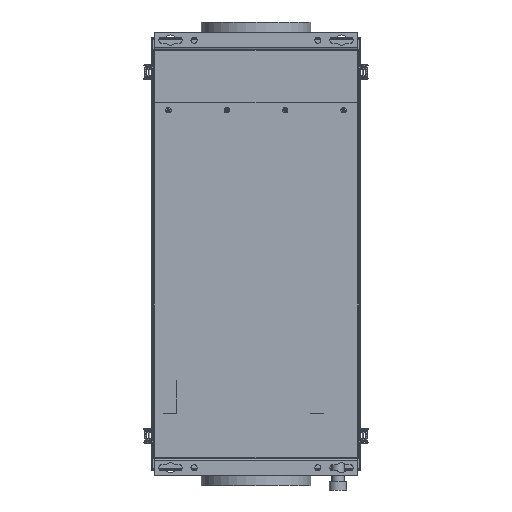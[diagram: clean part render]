
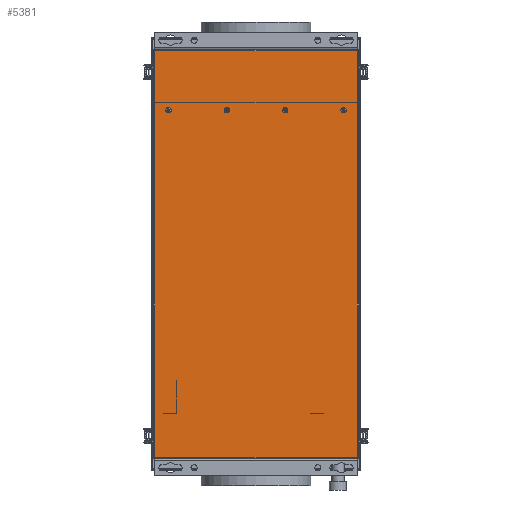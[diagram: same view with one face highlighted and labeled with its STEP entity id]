
A CAD part, front view. The second image highlights one B-rep face of the part: STEP entity #5381.
In plain terms, the highlighted planar face has unit normal (0, -1, 0).
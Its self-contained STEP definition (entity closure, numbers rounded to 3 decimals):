
#17 = ORIENTED_EDGE ( 'NONE', *, *, #4715, .T. ) ;
#732 = CIRCLE ( 'NONE', #29848, 2.1 ) ;
#756 = VERTEX_POINT ( 'NONE', #5319 ) ;
#863 = DIRECTION ( 'NONE',  ( 0., -1., 0. ) ) ;
#913 = CARTESIAN_POINT ( 'NONE',  ( 42.667, 0., 210. ) ) ;
#1188 = CARTESIAN_POINT ( 'NONE',  ( 128., 0., 210. ) ) ;
#1621 = VECTOR ( 'NONE', #2387, 1000. ) ;
#2139 = EDGE_CURVE ( 'NONE', #14454, #5399, #732, .T. ) ;
#2387 = DIRECTION ( 'NONE',  ( -1., 0., 0. ) ) ;
#2449 = FACE_BOUND ( 'NONE', #15016, .T. ) ;
#3085 = CARTESIAN_POINT ( 'NONE',  ( 128., 0., 210. ) ) ;
#3416 = DIRECTION ( 'NONE',  ( 0., 0., -1. ) ) ;
#3618 = CARTESIAN_POINT ( 'NONE',  ( 42.667, 0., 212.1 ) ) ;
#3654 = VERTEX_POINT ( 'NONE', #29640 ) ;
#3656 = AXIS2_PLACEMENT_3D ( 'NONE', #913, #18228, #3416 ) ;
#3668 = CIRCLE ( 'NONE', #10980, 2.1 ) ;
#3694 = DIRECTION ( 'NONE',  ( 0., 0., -1. ) ) ;
#4715 = EDGE_CURVE ( 'NONE', #5045, #15996, #14491, .T. ) ;
#5045 = VERTEX_POINT ( 'NONE', #11815 ) ;
#5319 = CARTESIAN_POINT ( 'NONE',  ( -128., 0., 207.9 ) ) ;
#5339 = VECTOR ( 'NONE', #32213, 1000. ) ;
#5381 = ADVANCED_FACE ( 'NONE', ( #10540, #28895, #15596, #9007, #2449 ), #20818, .T. ) ;
#5399 = VERTEX_POINT ( 'NONE', #3618 ) ;
#5536 = EDGE_CURVE ( 'NONE', #5399, #14454, #5942, .T. ) ;
#5566 = DIRECTION ( 'NONE',  ( 0., -1., 0. ) ) ;
#5580 = DIRECTION ( 'NONE',  ( 0., 0., -1. ) ) ;
#5724 = ORIENTED_EDGE ( 'NONE', *, *, #16790, .T. ) ;
#5942 = CIRCLE ( 'NONE', #3656, 2.1 ) ;
#7339 = VERTEX_POINT ( 'NONE', #25856 ) ;
#7412 = LINE ( 'NONE', #17213, #1621 ) ;
#7863 = AXIS2_PLACEMENT_3D ( 'NONE', #1188, #18483, #3694 ) ;
#8925 = CARTESIAN_POINT ( 'NONE',  ( 148., 0., -299. ) ) ;
#8940 = VECTOR ( 'NONE', #27096, 1000. ) ;
#9007 = FACE_BOUND ( 'NONE', #20584, .T. ) ;
#9048 = DIRECTION ( 'NONE',  ( 0., -1., 0. ) ) ;
#9109 = ORIENTED_EDGE ( 'NONE', *, *, #13876, .F. ) ;
#9120 = CIRCLE ( 'NONE', #16298, 2.1 ) ;
#9263 = ORIENTED_EDGE ( 'NONE', *, *, #5536, .F. ) ;
#9329 = ORIENTED_EDGE ( 'NONE', *, *, #2139, .F. ) ;
#9710 = AXIS2_PLACEMENT_3D ( 'NONE', #23926, #9048, #26473 ) ;
#9712 = LINE ( 'NONE', #32127, #8940 ) ;
#10540 = FACE_BOUND ( 'NONE', #31930, .T. ) ;
#10610 = CARTESIAN_POINT ( 'NONE',  ( -128., 0., 210. ) ) ;
#10924 = CARTESIAN_POINT ( 'NONE',  ( 150., 0., 299. ) ) ;
#10980 = AXIS2_PLACEMENT_3D ( 'NONE', #3085, #20385, #5580 ) ;
#11043 = CIRCLE ( 'NONE', #27386, 2.1 ) ;
#11104 = ORIENTED_EDGE ( 'NONE', *, *, #20981, .F. ) ;
#11379 = CARTESIAN_POINT ( 'NONE',  ( -128., 0., 212.1 ) ) ;
#11433 = CARTESIAN_POINT ( 'NONE',  ( 42.667, 0., 207.9 ) ) ;
#11524 = VERTEX_POINT ( 'NONE', #26971 ) ;
#11815 = CARTESIAN_POINT ( 'NONE',  ( 148., 0., -297. ) ) ;
#12076 = CARTESIAN_POINT ( 'NONE',  ( 42.667, 0., 210. ) ) ;
#12170 = EDGE_CURVE ( 'NONE', #12616, #11524, #31044, .T. ) ;
#12616 = VERTEX_POINT ( 'NONE', #22086 ) ;
#13127 = DIRECTION ( 'NONE',  ( 0., 0., -1. ) ) ;
#13432 = DIRECTION ( 'NONE',  ( 0., 0., -1. ) ) ;
#13876 = EDGE_CURVE ( 'NONE', #21289, #7339, #11043, .T. ) ;
#13889 = ORIENTED_EDGE ( 'NONE', *, *, #12170, .T. ) ;
#14351 = CIRCLE ( 'NONE', #23154, 2.1 ) ;
#14454 = VERTEX_POINT ( 'NONE', #11433 ) ;
#14491 = LINE ( 'NONE', #8925, #20302 ) ;
#14569 = EDGE_LOOP ( 'NONE', ( #11104, #30647 ) ) ;
#14577 = EDGE_LOOP ( 'NONE', ( #13889, #27055, #17, #5724 ) ) ;
#14583 = DIRECTION ( 'NONE',  ( 0., 0., -1. ) ) ;
#14738 = CARTESIAN_POINT ( 'NONE',  ( -148., 0., 299. ) ) ;
#15016 = EDGE_LOOP ( 'NONE', ( #26380, #25906 ) ) ;
#15596 = FACE_OUTER_BOUND ( 'NONE', #14577, .T. ) ;
#15685 = CARTESIAN_POINT ( 'NONE',  ( -42.667, 0., 210. ) ) ;
#15996 = VERTEX_POINT ( 'NONE', #29350 ) ;
#16019 = VERTEX_POINT ( 'NONE', #31878 ) ;
#16298 = AXIS2_PLACEMENT_3D ( 'NONE', #20373, #5566, #22870 ) ;
#16790 = EDGE_CURVE ( 'NONE', #15996, #12616, #7412, .T. ) ;
#17213 = CARTESIAN_POINT ( 'NONE',  ( 148., 0., 297. ) ) ;
#17516 = EDGE_CURVE ( 'NONE', #27692, #756, #14351, .T. ) ;
#18168 = DIRECTION ( 'NONE',  ( 0., 0., -1. ) ) ;
#18228 = DIRECTION ( 'NONE',  ( 0., -1., 0. ) ) ;
#18483 = DIRECTION ( 'NONE',  ( 0., -1., 0. ) ) ;
#19011 = DIRECTION ( 'NONE',  ( 0., 0., 1. ) ) ;
#19181 = AXIS2_PLACEMENT_3D ( 'NONE', #10924, #28387, #13432 ) ;
#20254 = EDGE_CURVE ( 'NONE', #16019, #3654, #23055, .T. ) ;
#20302 = VECTOR ( 'NONE', #19011, 1000. ) ;
#20373 = CARTESIAN_POINT ( 'NONE',  ( -42.667, 0., 210. ) ) ;
#20385 = DIRECTION ( 'NONE',  ( 0., -1., 0. ) ) ;
#20584 = EDGE_LOOP ( 'NONE', ( #9109, #23143 ) ) ;
#20818 = PLANE ( 'NONE',  #19181 ) ;
#20981 = EDGE_CURVE ( 'NONE', #3654, #16019, #3668, .T. ) ;
#21289 = VERTEX_POINT ( 'NONE', #29552 ) ;
#22086 = CARTESIAN_POINT ( 'NONE',  ( -148., 0., 297. ) ) ;
#22870 = DIRECTION ( 'NONE',  ( 0., 0., -1. ) ) ;
#23055 = CIRCLE ( 'NONE', #7863, 2.1 ) ;
#23143 = ORIENTED_EDGE ( 'NONE', *, *, #27999, .F. ) ;
#23154 = AXIS2_PLACEMENT_3D ( 'NONE', #10610, #28092, #13127 ) ;
#23535 = EDGE_CURVE ( 'NONE', #11524, #5045, #9712, .T. ) ;
#23926 = CARTESIAN_POINT ( 'NONE',  ( -128., 0., 210. ) ) ;
#25856 = CARTESIAN_POINT ( 'NONE',  ( -42.667, 0., 212.1 ) ) ;
#25906 = ORIENTED_EDGE ( 'NONE', *, *, #17516, .F. ) ;
#26380 = ORIENTED_EDGE ( 'NONE', *, *, #27236, .F. ) ;
#26473 = DIRECTION ( 'NONE',  ( 0., 0., -1. ) ) ;
#26971 = CARTESIAN_POINT ( 'NONE',  ( -148., 0., -297. ) ) ;
#27055 = ORIENTED_EDGE ( 'NONE', *, *, #23535, .T. ) ;
#27096 = DIRECTION ( 'NONE',  ( 1., 0., 0. ) ) ;
#27236 = EDGE_CURVE ( 'NONE', #756, #27692, #27891, .T. ) ;
#27386 = AXIS2_PLACEMENT_3D ( 'NONE', #15685, #863, #18168 ) ;
#27692 = VERTEX_POINT ( 'NONE', #11379 ) ;
#27891 = CIRCLE ( 'NONE', #9710, 2.1 ) ;
#27999 = EDGE_CURVE ( 'NONE', #7339, #21289, #9120, .T. ) ;
#28092 = DIRECTION ( 'NONE',  ( 0., -1., 0. ) ) ;
#28387 = DIRECTION ( 'NONE',  ( 0., -1., 0. ) ) ;
#28895 = FACE_BOUND ( 'NONE', #14569, .T. ) ;
#29350 = CARTESIAN_POINT ( 'NONE',  ( 148., 0., 297. ) ) ;
#29547 = DIRECTION ( 'NONE',  ( 0., -1., 0. ) ) ;
#29552 = CARTESIAN_POINT ( 'NONE',  ( -42.667, 0., 207.9 ) ) ;
#29640 = CARTESIAN_POINT ( 'NONE',  ( 128., 0., 207.9 ) ) ;
#29848 = AXIS2_PLACEMENT_3D ( 'NONE', #12076, #29547, #14583 ) ;
#30647 = ORIENTED_EDGE ( 'NONE', *, *, #20254, .F. ) ;
#31044 = LINE ( 'NONE', #14738, #5339 ) ;
#31878 = CARTESIAN_POINT ( 'NONE',  ( 128., 0., 212.1 ) ) ;
#31930 = EDGE_LOOP ( 'NONE', ( #9329, #9263 ) ) ;
#32127 = CARTESIAN_POINT ( 'NONE',  ( -148., 0., -297. ) ) ;
#32213 = DIRECTION ( 'NONE',  ( 0., 0., -1. ) ) ;
